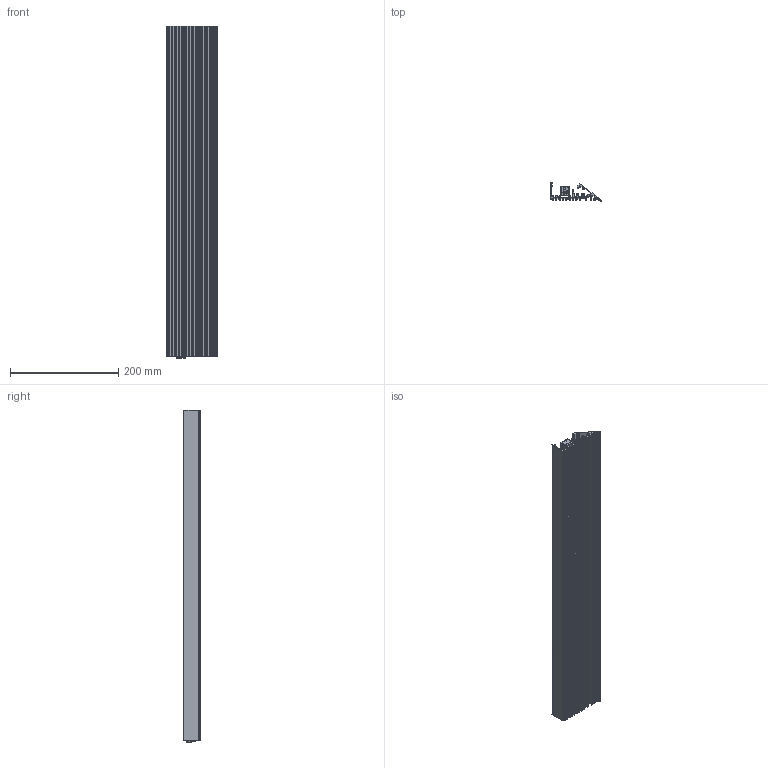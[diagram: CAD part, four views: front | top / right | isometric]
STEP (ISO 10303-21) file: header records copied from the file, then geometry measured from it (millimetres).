
FILE_DESCRIPTION (( 'STEP AP214' ), '1' );
FILE_NAME ('MEC20 step.revit.STEP', '2023-02-01T15:05:45', ( '' ), ( '' ), 'SwSTEP 2.0', 'SolidWorks 2021', '' );
FILE_SCHEMA (( 'AUTOMOTIVE_DESIGN' ));
Length unit declared in the file: inch
Products named in the file (8): 710-10200-300_24000; 720-10001-304; 831-XXXXX-SM20_831-24000-SM20; 710-10079-300_24000; 710-10012-400_24000; MEC20 step.revit; SM20LDL.revit_SM20L STAND ALONE; 710-10081-300_24000
Assembly tree (8 placements, depth 4):
  MEC20 step.revit
    710-10081-300_24000
    710-10079-300_24000
    SM20LDL.revit_SM20L STAND ALONE
      831-XXXXX-SM20_831-24000-SM20
        710-10200-300_24000
      710-10012-400_24000
      720-10001-304  x2
Bounding box: 93.96 x 32.99 x 612.6 mm (x, y, z)
Volume: 379602.7 mm3; surface area: 466293.9 mm2
Topology: 6 solids, 6 shells, 869 faces, 2547 edges, 1696 vertices
Faces by surface type: plane 461, cylinder 368, bspline 24, cone 10, torus 6
Entity records: 27794 total; most frequent: CARTESIAN_POINT 5758, ORIENTED_EDGE 4686, DIRECTION 4549, EDGE_CURVE 2343, LINE 1573, VECTOR 1573, VERTEX_POINT 1561, AXIS2_PLACEMENT_3D 1488
